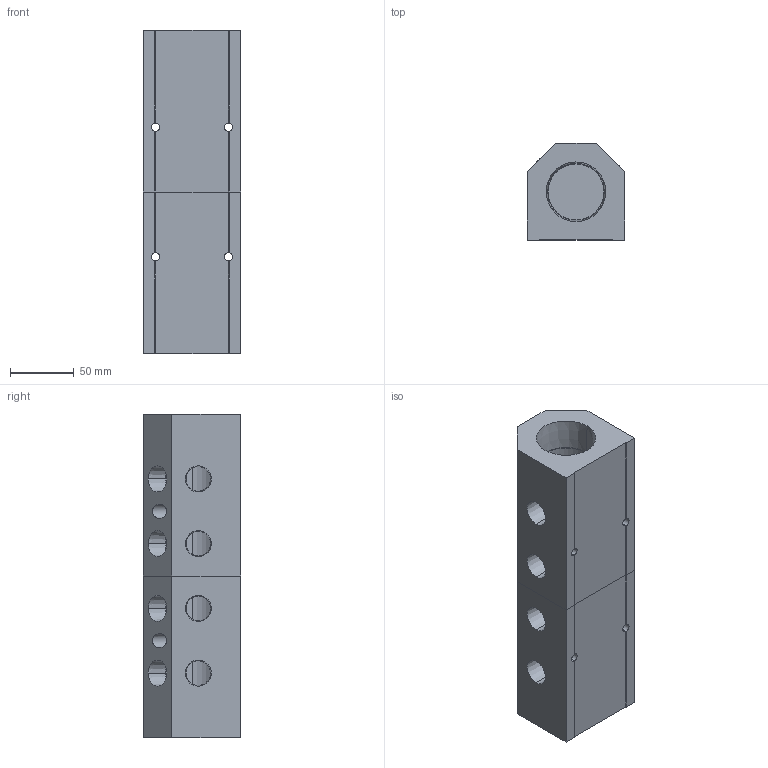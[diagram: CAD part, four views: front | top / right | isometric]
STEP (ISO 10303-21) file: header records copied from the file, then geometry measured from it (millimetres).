
FILE_DESCRIPTION (( 'STEP AP214' ), '1' );
FILE_NAME ('ALM4AB-N8N24-254RB.step', '2022-02-07T09:39:29', ( '' ), ( '' ), 'SwSTEP 2.0', 'SolidWorks 2020', '' );
FILE_SCHEMA (( 'AUTOMOTIVE_DESIGN' ));
Length unit declared in the file: millimetre
Products named in the file (1): ALM4AB-N8N24-254RB
Bounding box: 76.2 x 76.2 x 254 mm (x, y, z)
Volume: 899747.4 mm3; surface area: 136092.9 mm2
Topology: 2 solids, 2 shells, 364 faces, 964 edges, 640 vertices
Faces by surface type: plane 259, bspline 65, cone 20, cylinder 20
Entity records: 19335 total; most frequent: CARTESIAN_POINT 7318, ORIENTED_EDGE 1928, DIRECTION 1450, EDGE_CURVE 964, LINE 738, VECTOR 738, VERTEX_POINT 640, EDGE_LOOP 424
